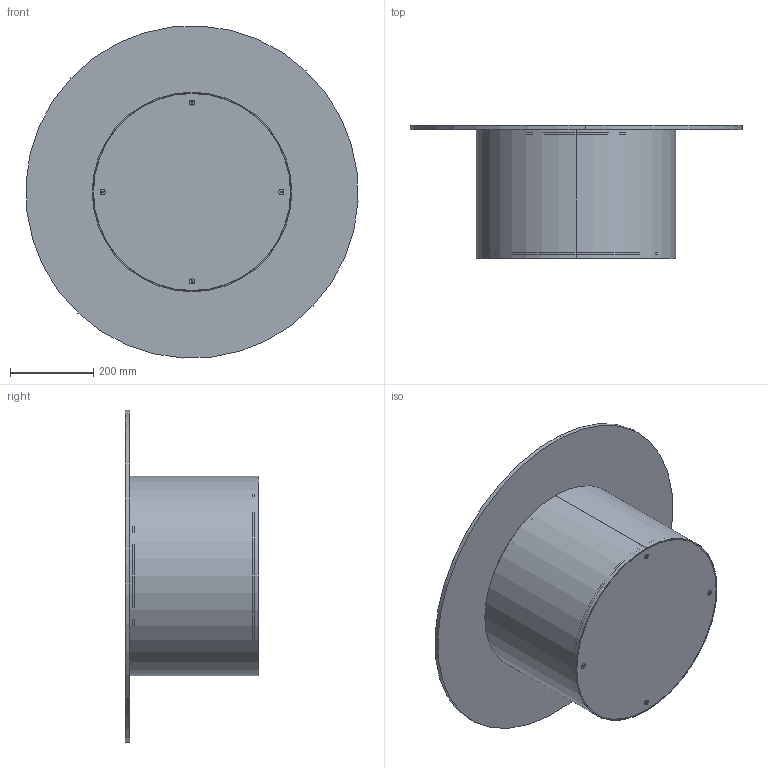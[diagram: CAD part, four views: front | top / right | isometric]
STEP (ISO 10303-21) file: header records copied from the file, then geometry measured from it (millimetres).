
FILE_DESCRIPTION (( 'STEP AP203' ), '1' );
FILE_NAME ('CL12G.STEP', '2024-08-06T10:15:59', ( '' ), ( '' ), 'SwSTEP 2.0', 'SolidWorks 2022', '' );
FILE_SCHEMA (( 'CONFIG_CONTROL_DESIGN' ));
Length unit declared in the file: millimetre
Products named in the file (10): P0000003-00-STAFFA DI FISSAGGIO DIAMETRO 250_P0000003-250mm normale; CXXCRXX-00-Piani Rotondi in Cristallo CON PIASTRA_C02P PIANO CRISTALLO D.80cm; M6xXXmm_HEX_M6x20mm HEX; CLB1000000_04-00-Supporto Zavorra fusto D.48cm; CLB1000000_02-00-Fusto centrale d.48cm; CLB1000000-00-CILINDRO LOW D.48cm BASE GREZZA; C1XCRMXX-00-piani Rotondi Cristallo_C02 D.80cm; CLB1000000_03-00-Zavorra cilindro low D.48cm; CL12G; CLB1000000_01-00-Supporto piano fusto D.48cm
Assembly tree (12 placements, depth 3):
  CL12G
    CLB1000000-00-CILINDRO LOW D.48cm BASE GREZZA
      CLB1000000_02-00-Fusto centrale d.48cm
      CLB1000000_03-00-Zavorra cilindro low D.48cm
      CLB1000000_01-00-Supporto piano fusto D.48cm
      CLB1000000_04-00-Supporto Zavorra fusto D.48cm
      M6xXXmm_HEX_M6x20mm HEX  x4
    CXXCRXX-00-Piani Rotondi in Cristallo CON PIASTRA_C02P PIANO CRISTALLO D.80cm
      C1XCRMXX-00-piani Rotondi Cristallo_C02 D.80cm
      P0000003-00-STAFFA DI FISSAGGIO DIAMETRO 250_P0000003-250mm normale
Bounding box: 798.67 x 320 x 798.67 mm (x, y, z)
Volume: 8539309.6 mm3; surface area: 2720501.6 mm2
Topology: 12 solids, 12 shells, 231 faces, 499 edges, 288 vertices
Faces by surface type: plane 110, cylinder 73, cone 38, torus 8, bspline 2
Entity records: 5193 total; most frequent: CARTESIAN_POINT 1002, DIRECTION 697, ORIENTED_EDGE 586, EDGE_CURVE 293, AXIS2_PLACEMENT_3D 284, VERTEX_POINT 183, EDGE_LOOP 164, CIRCLE 140
